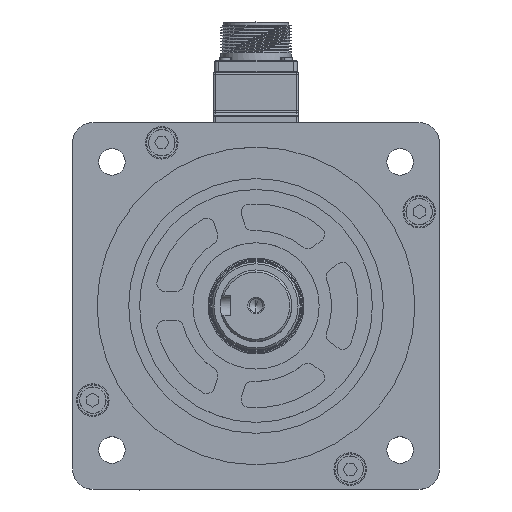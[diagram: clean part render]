
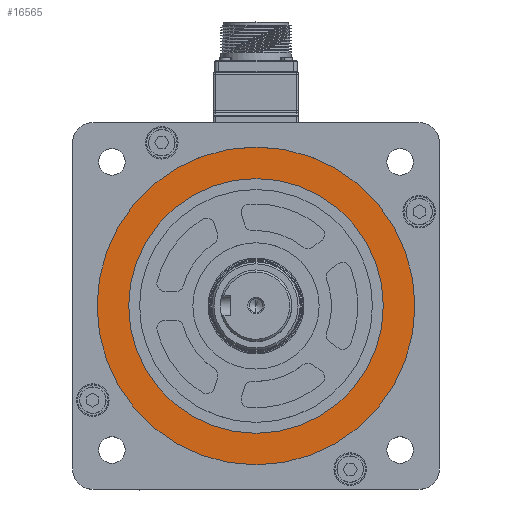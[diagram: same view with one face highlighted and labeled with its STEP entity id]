
A CAD part, top view. The second image highlights one B-rep face of the part: STEP entity #16565.
In plain terms, the highlighted planar face has unit normal (0, 0, 1) as drawn and (1, 0, 0) by its records, which use the part's own axes.
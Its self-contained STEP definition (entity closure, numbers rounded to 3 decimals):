
#64 = ORIENTED_EDGE ( 'NONE', *, *, #28142, .T. ) ;
#1034 = CIRCLE ( 'NONE', #17789, 62.5 ) ;
#2436 = DIRECTION ( 'NONE',  ( -1., 0., 0. ) ) ;
#3510 = CIRCLE ( 'NONE', #24851, 78. ) ;
#3837 = AXIS2_PLACEMENT_3D ( 'NONE', #35275, #13905, #38888 ) ;
#4341 = EDGE_LOOP ( 'NONE', ( #64, #35977 ) ) ;
#4517 = CARTESIAN_POINT ( 'NONE',  ( 22.02, 0., 78. ) ) ;
#4803 = EDGE_CURVE ( 'NONE', #7180, #35431, #45920, .T. ) ;
#6913 = CARTESIAN_POINT ( 'NONE',  ( 22.02, 0., 62.5 ) ) ;
#7180 = VERTEX_POINT ( 'NONE', #26341 ) ;
#8750 = PLANE ( 'NONE',  #19726 ) ;
#11233 = EDGE_CURVE ( 'NONE', #35431, #7180, #3510, .T. ) ;
#12317 = DIRECTION ( 'NONE',  ( 0., 0., 1. ) ) ;
#12738 = CARTESIAN_POINT ( 'NONE',  ( 22.02, 0., 0. ) ) ;
#12799 = EDGE_CURVE ( 'NONE', #30857, #33545, #1034, .T. ) ;
#13473 = CARTESIAN_POINT ( 'NONE',  ( 22.02, 0., -62.5 ) ) ;
#13530 = ORIENTED_EDGE ( 'NONE', *, *, #4803, .F. ) ;
#13905 = DIRECTION ( 'NONE',  ( -1., 0., 0. ) ) ;
#16317 = DIRECTION ( 'NONE',  ( 0., 0., 1. ) ) ;
#16565 = ADVANCED_FACE ( 'NONE', ( #33744, #25390 ), #8750, .F. ) ;
#17070 = EDGE_LOOP ( 'NONE', ( #30276, #13530 ) ) ;
#17789 = AXIS2_PLACEMENT_3D ( 'NONE', #42226, #20877, #45791 ) ;
#19726 = AXIS2_PLACEMENT_3D ( 'NONE', #37148, #33709, #12317 ) ;
#20877 = DIRECTION ( 'NONE',  ( -1., 0., 0. ) ) ;
#23834 = CARTESIAN_POINT ( 'NONE',  ( 22.02, 0., 0. ) ) ;
#24851 = AXIS2_PLACEMENT_3D ( 'NONE', #12738, #37707, #16317 ) ;
#25390 = FACE_BOUND ( 'NONE', #4341, .T. ) ;
#26341 = CARTESIAN_POINT ( 'NONE',  ( 22.02, 0., -78. ) ) ;
#27433 = DIRECTION ( 'NONE',  ( 0., 0., 1. ) ) ;
#28142 = EDGE_CURVE ( 'NONE', #33545, #30857, #35997, .T. ) ;
#29703 = AXIS2_PLACEMENT_3D ( 'NONE', #23834, #2436, #27433 ) ;
#30276 = ORIENTED_EDGE ( 'NONE', *, *, #11233, .F. ) ;
#30857 = VERTEX_POINT ( 'NONE', #13473 ) ;
#33545 = VERTEX_POINT ( 'NONE', #6913 ) ;
#33709 = DIRECTION ( 'NONE',  ( -1., 0., 0. ) ) ;
#33744 = FACE_OUTER_BOUND ( 'NONE', #17070, .T. ) ;
#35275 = CARTESIAN_POINT ( 'NONE',  ( 22.02, 0., 0. ) ) ;
#35431 = VERTEX_POINT ( 'NONE', #4517 ) ;
#35977 = ORIENTED_EDGE ( 'NONE', *, *, #12799, .T. ) ;
#35997 = CIRCLE ( 'NONE', #3837, 62.5 ) ;
#37148 = CARTESIAN_POINT ( 'NONE',  ( 22.02, 62.5, 0. ) ) ;
#37707 = DIRECTION ( 'NONE',  ( -1., 0., 0. ) ) ;
#38888 = DIRECTION ( 'NONE',  ( 0., 0., 1. ) ) ;
#42226 = CARTESIAN_POINT ( 'NONE',  ( 22.02, 0., 0. ) ) ;
#45791 = DIRECTION ( 'NONE',  ( 0., 0., 1. ) ) ;
#45920 = CIRCLE ( 'NONE', #29703, 78. ) ;
